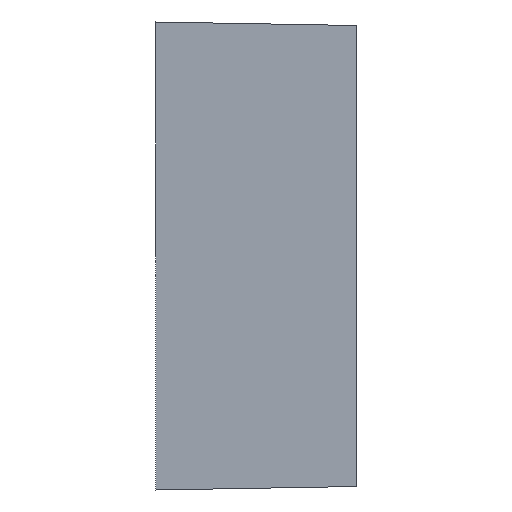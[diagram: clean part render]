
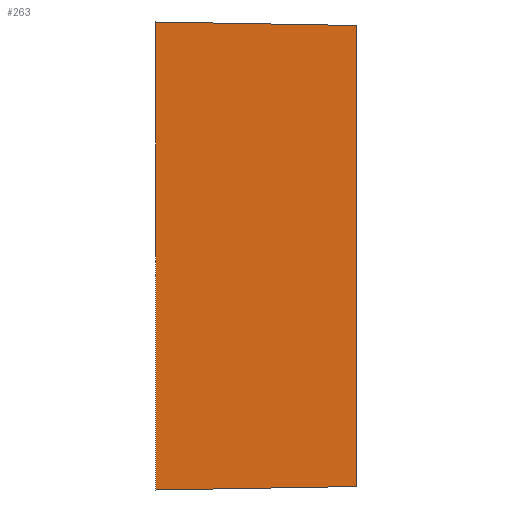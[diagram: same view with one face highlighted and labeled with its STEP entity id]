
A CAD part, left-side view. The second image highlights one B-rep face of the part: STEP entity #263.
In plain terms, the highlighted planar face has unit normal (-1, 0, 0).
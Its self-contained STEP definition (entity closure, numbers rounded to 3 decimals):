
#206 = CARTESIAN_POINT ( 'NONE',  ( -26.167, 32.674, 27.483 ) ) ;
#226 = VECTOR ( 'NONE', #2193, 1000. ) ;
#256 = ORIENTED_EDGE ( 'NONE', *, *, #486, .F. ) ;
#263 = ADVANCED_FACE ( 'NONE', ( #1985 ), #1543, .F. ) ;
#406 = LINE ( 'NONE', #4017, #4759 ) ;
#486 = EDGE_CURVE ( 'NONE', #3391, #1382, #1377, .T. ) ;
#850 = VERTEX_POINT ( 'NONE', #206 ) ;
#1116 = CARTESIAN_POINT ( 'NONE',  ( -26.167, 9.074, 0. ) ) ;
#1147 = LINE ( 'NONE', #1551, #4230 ) ;
#1377 = LINE ( 'NONE', #2622, #4840 ) ;
#1382 = VERTEX_POINT ( 'NONE', #4621 ) ;
#1406 = CARTESIAN_POINT ( 'NONE',  ( -26.167, 32.674, -27.483 ) ) ;
#1543 = PLANE ( 'NONE',  #1662 ) ;
#1551 = CARTESIAN_POINT ( 'NONE',  ( -26.167, 9.074, -27.071 ) ) ;
#1659 = EDGE_CURVE ( 'NONE', #3737, #850, #2579, .T. ) ;
#1662 = AXIS2_PLACEMENT_3D ( 'NONE', #1116, #3144, #4718 ) ;
#1985 = FACE_OUTER_BOUND ( 'NONE', #3653, .T. ) ;
#2193 = DIRECTION ( 'NONE',  ( 0., 0., 1. ) ) ;
#2579 = LINE ( 'NONE', #3321, #226 ) ;
#2622 = CARTESIAN_POINT ( 'NONE',  ( -26.167, 9.074, 27.071 ) ) ;
#3144 = DIRECTION ( 'NONE',  ( 1., 0., 0. ) ) ;
#3150 = DIRECTION ( 'NONE',  ( 0., 1., -0.017 ) ) ;
#3185 = EDGE_CURVE ( 'NONE', #850, #3391, #406, .T. ) ;
#3321 = CARTESIAN_POINT ( 'NONE',  ( -26.167, 32.674, -27.5 ) ) ;
#3391 = VERTEX_POINT ( 'NONE', #4706 ) ;
#3653 = EDGE_LOOP ( 'NONE', ( #3698, #4203, #256, #3873 ) ) ;
#3685 = EDGE_CURVE ( 'NONE', #1382, #3737, #1147, .T. ) ;
#3698 = ORIENTED_EDGE ( 'NONE', *, *, #1659, .F. ) ;
#3737 = VERTEX_POINT ( 'NONE', #1406 ) ;
#3873 = ORIENTED_EDGE ( 'NONE', *, *, #3185, .F. ) ;
#4017 = CARTESIAN_POINT ( 'NONE',  ( -26.167, 33.674, 27.5 ) ) ;
#4203 = ORIENTED_EDGE ( 'NONE', *, *, #3685, .F. ) ;
#4230 = VECTOR ( 'NONE', #3150, 1000. ) ;
#4621 = CARTESIAN_POINT ( 'NONE',  ( -26.167, 9.074, -27.071 ) ) ;
#4706 = CARTESIAN_POINT ( 'NONE',  ( -26.167, 9.074, 27.071 ) ) ;
#4718 = DIRECTION ( 'NONE',  ( 0., 1., 0. ) ) ;
#4758 = DIRECTION ( 'NONE',  ( 0., -1., -0.017 ) ) ;
#4759 = VECTOR ( 'NONE', #4758, 1000. ) ;
#4840 = VECTOR ( 'NONE', #4916, 1000. ) ;
#4916 = DIRECTION ( 'NONE',  ( 0., 0., -1. ) ) ;
